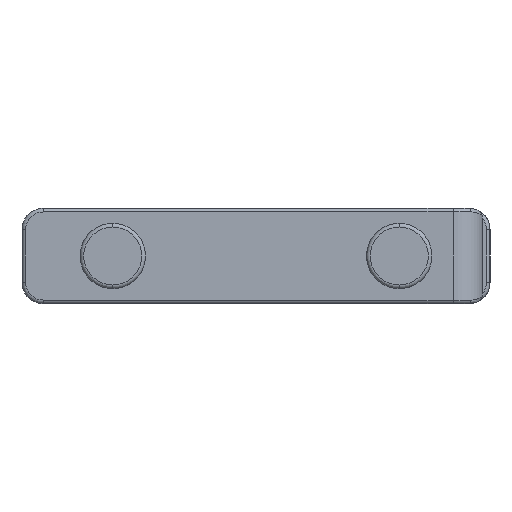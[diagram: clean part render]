
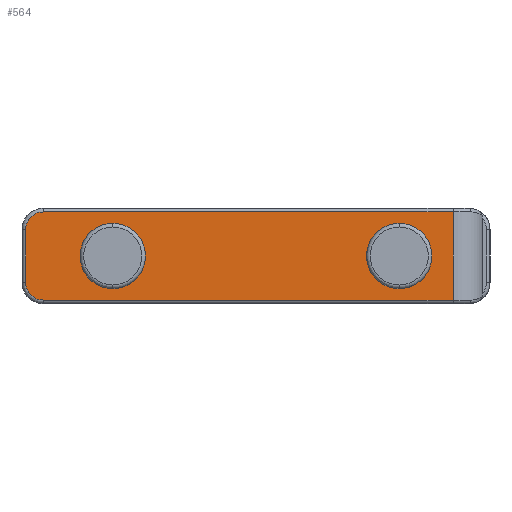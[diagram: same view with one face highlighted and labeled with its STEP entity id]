
A CAD part, left-side view. The second image highlights one B-rep face of the part: STEP entity #564.
In plain terms, the highlighted planar face has unit normal (-1, 0, 0).
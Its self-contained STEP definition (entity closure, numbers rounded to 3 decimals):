
#78 = EDGE_CURVE ( 'NONE', #362, #2767, #787, .T. ) ;
#80 = ORIENTED_EDGE ( 'NONE', *, *, #90, .T. ) ;
#87 = EDGE_CURVE ( 'NONE', #3211, #3219, #756, .T. ) ;
#90 = EDGE_CURVE ( 'NONE', #2767, #3218, #815, .T. ) ;
#112 = EDGE_CURVE ( 'NONE', #117, #114, #798, .T. ) ;
#114 = VERTEX_POINT ( 'NONE', #850 ) ;
#117 = VERTEX_POINT ( 'NONE', #844 ) ;
#237 = ORIENTED_EDGE ( 'NONE', *, *, #260, .F. ) ;
#260 = EDGE_CURVE ( 'NONE', #468, #477, #982, .T. ) ;
#310 = ORIENTED_EDGE ( 'NONE', *, *, #548, .F. ) ;
#311 = EDGE_CURVE ( 'NONE', #3219, #329, #1058, .T. ) ;
#312 = EDGE_LOOP ( 'NONE', ( #237, #310 ) ) ;
#329 = VERTEX_POINT ( 'NONE', #1075 ) ;
#344 = ORIENTED_EDGE ( 'NONE', *, *, #78, .T. ) ;
#362 = VERTEX_POINT ( 'NONE', #1216 ) ;
#369 = EDGE_CURVE ( 'NONE', #362, #329, #1276, .T. ) ;
#456 = EDGE_CURVE ( 'NONE', #114, #117, #1426, .T. ) ;
#457 = EDGE_LOOP ( 'NONE', ( #540, #344, #80, #3215, #3214, #3213 ) ) ;
#468 = VERTEX_POINT ( 'NONE', #1455 ) ;
#477 = VERTEX_POINT ( 'NONE', #1493 ) ;
#483 = EDGE_LOOP ( 'NONE', ( #541, #562 ) ) ;
#540 = ORIENTED_EDGE ( 'NONE', *, *, #369, .F. ) ;
#541 = ORIENTED_EDGE ( 'NONE', *, *, #456, .F. ) ;
#548 = EDGE_CURVE ( 'NONE', #477, #468, #1583, .T. ) ;
#562 = ORIENTED_EDGE ( 'NONE', *, *, #112, .F. ) ;
#564 = ADVANCED_FACE ( 'NONE', ( #1618, #1617, #1616 ), #1615, .F. ) ;
#756 = CIRCLE ( 'NONE', #760, 2.4 ) ;
#760 = AXIS2_PLACEMENT_3D ( 'NONE', #818, #817, #816 ) ;
#783 = DIRECTION ( 'NONE',  ( 0., 1., 0. ) ) ;
#784 = VECTOR ( 'NONE', #783, 1000. ) ;
#785 = CARTESIAN_POINT ( 'NONE',  ( -208.2, 28.95, 6. ) ) ;
#787 = LINE ( 'NONE', #785, #784 ) ;
#790 = DIRECTION ( 'NONE',  ( 0., 0., -1. ) ) ;
#791 = DIRECTION ( 'NONE',  ( -1., 0., 0. ) ) ;
#792 = CARTESIAN_POINT ( 'NONE',  ( -208.2, 19.5, 0. ) ) ;
#793 = AXIS2_PLACEMENT_3D ( 'NONE', #792, #791, #790 ) ;
#798 = CIRCLE ( 'NONE', #793, 4.45 ) ;
#812 = DIRECTION ( 'NONE',  ( 0., 0., -1. ) ) ;
#813 = DIRECTION ( 'NONE',  ( -1., 0., 0. ) ) ;
#814 = AXIS2_PLACEMENT_3D ( 'NONE', #819, #813, #812 ) ;
#815 = CIRCLE ( 'NONE', #814, 2.4 ) ;
#816 = DIRECTION ( 'NONE',  ( 0., 0., -1. ) ) ;
#817 = DIRECTION ( 'NONE',  ( -1., 0., 0. ) ) ;
#818 = CARTESIAN_POINT ( 'NONE',  ( -208.2, 28.95, -3.6 ) ) ;
#819 = CARTESIAN_POINT ( 'NONE',  ( -208.2, 28.95, 3.6 ) ) ;
#844 = CARTESIAN_POINT ( 'NONE',  ( -208.2, 19.5, 4.45 ) ) ;
#850 = CARTESIAN_POINT ( 'NONE',  ( -208.2, 19.5, -4.45 ) ) ;
#978 = DIRECTION ( 'NONE',  ( 0., 0., -1. ) ) ;
#979 = DIRECTION ( 'NONE',  ( -1., 0., 0. ) ) ;
#980 = CARTESIAN_POINT ( 'NONE',  ( -208.2, -19.5, 0. ) ) ;
#981 = AXIS2_PLACEMENT_3D ( 'NONE', #980, #979, #978 ) ;
#982 = CIRCLE ( 'NONE', #981, 4.45 ) ;
#1055 = DIRECTION ( 'NONE',  ( 0., -1., 0. ) ) ;
#1056 = VECTOR ( 'NONE', #1055, 1000. ) ;
#1057 = CARTESIAN_POINT ( 'NONE',  ( -208.2, -26.82, -6. ) ) ;
#1058 = LINE ( 'NONE', #1057, #1056 ) ;
#1075 = CARTESIAN_POINT ( 'NONE',  ( -208.2, -26.82, -6. ) ) ;
#1216 = CARTESIAN_POINT ( 'NONE',  ( -208.2, -26.82, 6. ) ) ;
#1273 = DIRECTION ( 'NONE',  ( 0., 0., -1. ) ) ;
#1274 = VECTOR ( 'NONE', #1273, 1000. ) ;
#1275 = CARTESIAN_POINT ( 'NONE',  ( -208.2, -26.82, -7.5 ) ) ;
#1276 = LINE ( 'NONE', #1275, #1274 ) ;
#1411 = DIRECTION ( 'NONE',  ( 0., 0., -1. ) ) ;
#1412 = DIRECTION ( 'NONE',  ( -1., 0., 0. ) ) ;
#1423 = CARTESIAN_POINT ( 'NONE',  ( -208.2, 19.5, 0. ) ) ;
#1424 = AXIS2_PLACEMENT_3D ( 'NONE', #1423, #1412, #1411 ) ;
#1426 = CIRCLE ( 'NONE', #1424, 4.45 ) ;
#1455 = CARTESIAN_POINT ( 'NONE',  ( -208.2, -19.5, -4.45 ) ) ;
#1493 = CARTESIAN_POINT ( 'NONE',  ( -208.2, -19.5, 4.45 ) ) ;
#1583 = CIRCLE ( 'NONE', #1644, 4.45 ) ;
#1612 = CARTESIAN_POINT ( 'NONE',  ( -208.2, -27.9, -2.9 ) ) ;
#1613 = AXIS2_PLACEMENT_3D ( 'NONE', #1612, #1672, #1671 ) ;
#1615 = PLANE ( 'NONE',  #1613 ) ;
#1616 = FACE_BOUND ( 'NONE', #312, .T. ) ;
#1617 = FACE_OUTER_BOUND ( 'NONE', #457, .T. ) ;
#1618 = FACE_BOUND ( 'NONE', #483, .T. ) ;
#1641 = DIRECTION ( 'NONE',  ( 0., 0., -1. ) ) ;
#1642 = DIRECTION ( 'NONE',  ( -1., 0., 0. ) ) ;
#1643 = CARTESIAN_POINT ( 'NONE',  ( -208.2, -19.5, 0. ) ) ;
#1644 = AXIS2_PLACEMENT_3D ( 'NONE', #1643, #1642, #1641 ) ;
#1671 = DIRECTION ( 'NONE',  ( 0., 0., -1. ) ) ;
#1672 = DIRECTION ( 'NONE',  ( 1., 0., 0. ) ) ;
#2170 = CARTESIAN_POINT ( 'NONE',  ( -208.2, 28.95, 6. ) ) ;
#2628 = CARTESIAN_POINT ( 'NONE',  ( -208.2, 28.95, -6. ) ) ;
#2629 = CARTESIAN_POINT ( 'NONE',  ( -208.2, 31.35, 3.6 ) ) ;
#2635 = CARTESIAN_POINT ( 'NONE',  ( -208.2, 31.35, -3.6 ) ) ;
#2636 = DIRECTION ( 'NONE',  ( 0., 0., -1. ) ) ;
#2637 = VECTOR ( 'NONE', #2636, 1000. ) ;
#2638 = CARTESIAN_POINT ( 'NONE',  ( -208.2, 31.35, -3.6 ) ) ;
#2639 = LINE ( 'NONE', #2638, #2637 ) ;
#2767 = VERTEX_POINT ( 'NONE', #2170 ) ;
#3208 = EDGE_CURVE ( 'NONE', #3218, #3211, #2639, .T. ) ;
#3211 = VERTEX_POINT ( 'NONE', #2635 ) ;
#3213 = ORIENTED_EDGE ( 'NONE', *, *, #311, .T. ) ;
#3214 = ORIENTED_EDGE ( 'NONE', *, *, #87, .T. ) ;
#3215 = ORIENTED_EDGE ( 'NONE', *, *, #3208, .T. ) ;
#3218 = VERTEX_POINT ( 'NONE', #2629 ) ;
#3219 = VERTEX_POINT ( 'NONE', #2628 ) ;
